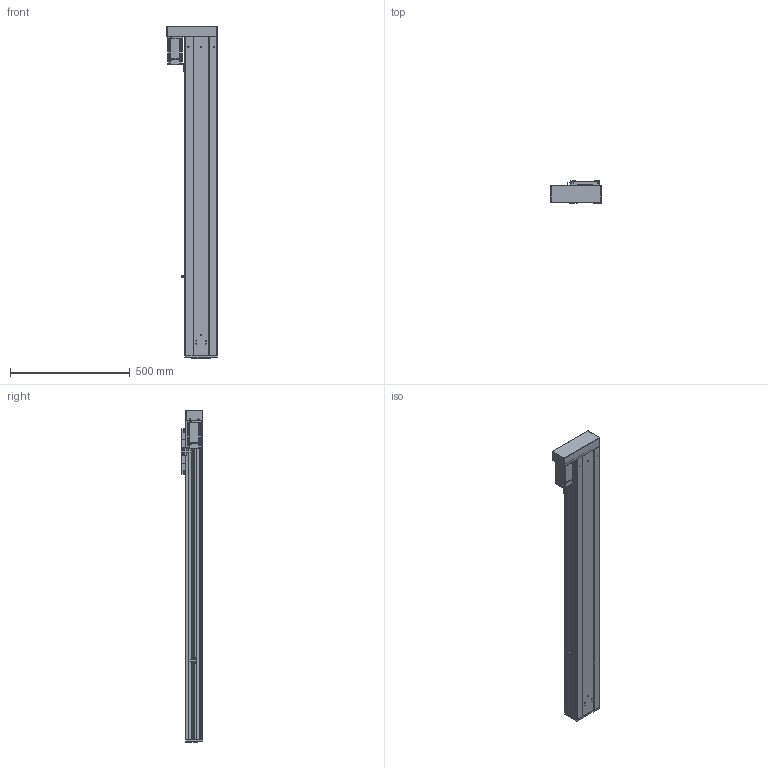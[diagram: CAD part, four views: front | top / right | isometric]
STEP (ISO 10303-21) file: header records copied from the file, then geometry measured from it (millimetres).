
FILE_DESCRIPTION (( 'STEP AP203' ), '1' );
FILE_NAME ('RY140F-L2020-300-LK.SLDASM_1050.step', '2021-03-02T08:37:44', ( '盈信电脑' ), ( '东莞市道滘镇水果街19号' ), 'SwSTEP 2.0', 'SolidWorks 2012', '' );
FILE_SCHEMA (( 'CONFIG_CONTROL_DESIGN' ));
Products named in the file (19): RY140F-L2020-300-LK.SLDASM_1050; RY140F-转折折电机座（7001）; RY140F-左右折电机安装板(400W M5); RY140F-酘衵殏萇儂欶(400W); RY140F-詩湍揤え; 覜茼ん672; 侐源滅袉蝶; RY140F-672覜茼んえ; RY140F-直连型材铝滑块(16丝杆); RY140F-后盖板(铝件）; 侂狟400W侜督萇儂; 15; RY140F-詩湍幗謫粣; RY140F-滅鳥奻裔; RY100F-詩湍揤踡謫; RY140F-直连型材铝滑块连接座; RY140F-300-LK蛌殏詩湍_1050; RY140F-300-LK倰第菁釱_1050; RY140F-300-LK倰第奻裔啣_1050
Assembly tree (23 placements, depth 3):
  RY140F-L2020-300-LK.SLDASM_1050
    RY140F-300-LK倰第菁釱_1050
    RY140F-300-LK倰第奻裔啣_1050  x2
    RY140F-300-LK蛌殏詩湍_1050
    RY140F-直连型材铝滑块连接座
    RY140F-滅鳥奻裔
    RY140F-詩湍幗謫粣
    RY100F-詩湍揤踡謫
    RY140F-直连型材铝滑块(16丝杆)
    RY140F-后盖板(铝件）
    侂狟400W侜督萇儂
      15
    覜茼ん672
    RY140F-672覜茼んえ
    RY140F-詩湍揤え  x2
    侐源滅袉蝶  x4
    RY140F-转折折电机座（7001）
    RY140F-左右折电机安装板(400W M5)
    RY140F-酘衵殏萇儂欶(400W)
Bounding box: 211 x 91 x 1384 mm (x, y, z)
Volume: 5127584.3 mm3; surface area: 1832934.9 mm2
Topology: 22 solids, 22 shells, 2057 faces, 5589 edges, 3524 vertices
Faces by surface type: cylinder 984, plane 789, cone 254, bspline 26, torus 4
Entity records: 64455 total; most frequent: CARTESIAN_POINT 13621, DIRECTION 10338, ORIENTED_EDGE 10010, EDGE_CURVE 5005, AXIS2_PLACEMENT_3D 3705, VERTEX_POINT 3264, VECTOR 2928, LINE 2928
